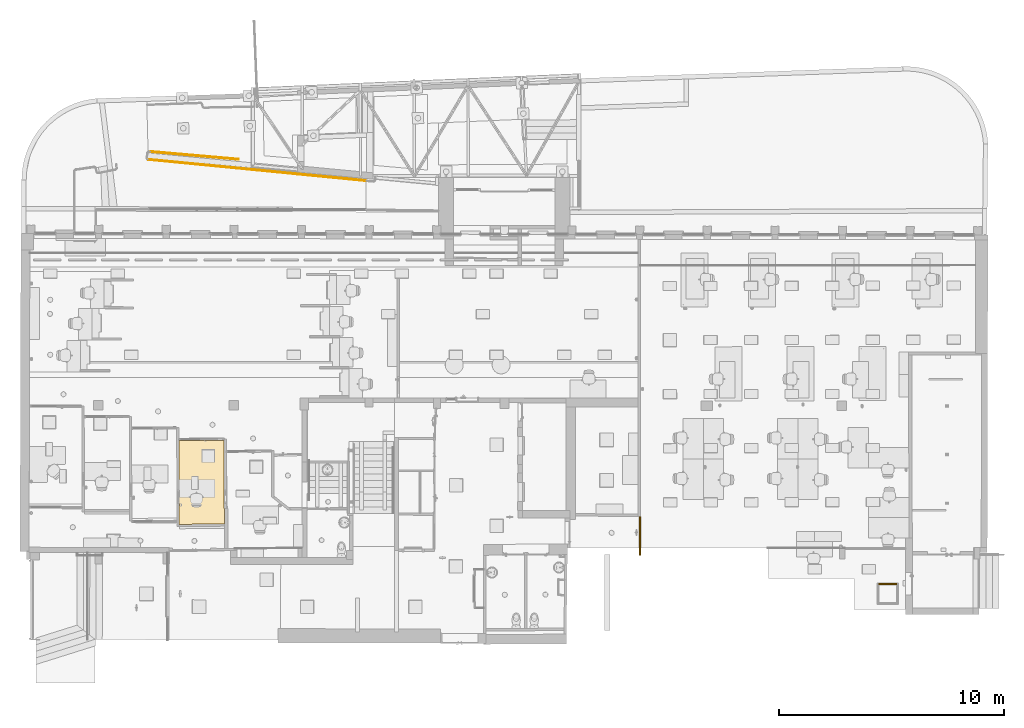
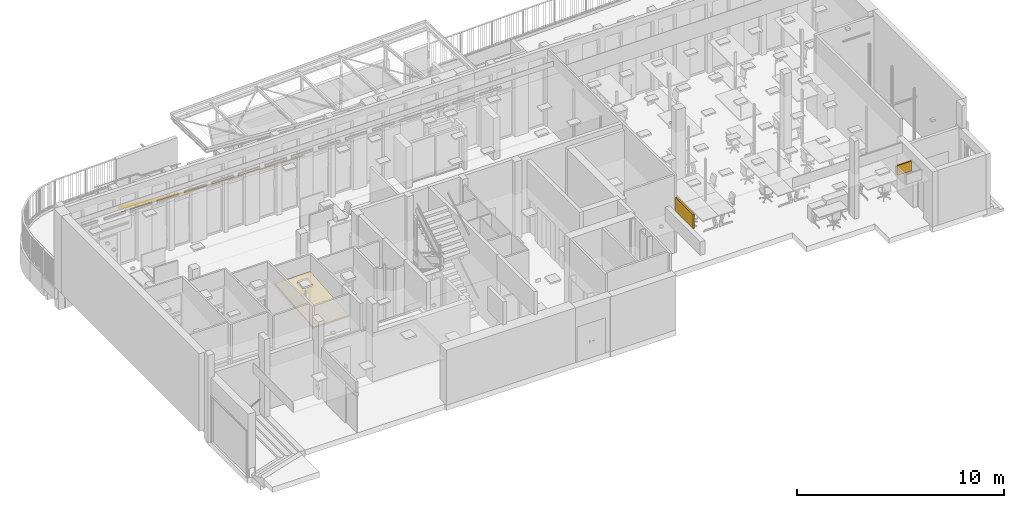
# One storey, part 53 of 128: 3 coverings, 2 railings.
"""IFC2X3 building model written with IfcOpenShell, lengths in metres."""

from ifc_helpers import new_model, entity, si_unit, converted_unit, derived_unit, direction, frame, frame_2d, origin, place, context, subcontext, project, spatial, polyline, rectangle, extrude, clip, bounded_halfspace, faceted_brep, material, layer, layer_set, layer_usage, type_object, element, save


model = new_model("IFC2X3")

# Units and contexts
model_context = context("Model", 3, precision=1e-05, world=origin(), true_north=direction((6.123031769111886e-17, 1.0)))
body_context = subcontext(model_context, "Body", "Model", "MODEL_VIEW")
ifc_project = project(units=[si_unit("LENGTHUNIT", "METRE"), si_unit("AREAUNIT", "SQUARE_METRE"), converted_unit("PLANEANGLEUNIT", "DEGREE", entity("IfcPlaneAngleMeasure", 0.017453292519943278), si_unit("PLANEANGLEUNIT", "RADIAN"), dimensions=[0, 0, 0, 0, 0, 0, 0]), derived_unit("THERMALTRANSMITTANCEUNIT", [(si_unit("MASSUNIT", "GRAM", prefix="KILO"), 1), (si_unit("THERMODYNAMICTEMPERATUREUNIT", "KELVIN"), -1), (si_unit("TIMEUNIT", "SECOND"), -3)])], contexts=[model_context])

# Site, building, storey
site_placement = place(None, origin())
site = spatial("IfcSite", under=ifc_project, at=site_placement, Name="Default", CompositionType="ELEMENT")
building_placement = place(site_placement, origin())
building = spatial("IfcBuilding", under=site, at=building_placement, CompositionType="ELEMENT")
storey_placement = place(building_placement, origin())
storey = spatial("IfcBuildingStorey", under=building, at=storey_placement, Name="00_RDC CAF", CompositionType="ELEMENT", Elevation=2.4982504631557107e-13)

# Coverings
ifc_material_1 = material(Name="ARC - FP - Blanc")
ifc_layer_1 = layer(ifc_material_1, 0.02)
ifc_material_2 = material(Name="ARC - FP - Trame 600 x 600")
ifc_layer_2 = layer(ifc_material_2, 0.05)
ifc_layer_set_1 = layer_set([ifc_layer_1, ifc_layer_2], Name="Plafond composé:FP_Dalle-600X600_70mm")
ifc_layer_usage_1 = layer_usage(ifc_layer_set_1, "AXIS3", "NEGATIVE", 0.07)
covering_type_1 = type_object("IfcCoveringType", Name="Plafond composé:FP_Dalle-600X600_70mm", PredefinedType="CEILING")
covering_1_placement = place(storey_placement, frame((13.31193188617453, 131.2677984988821, 2.8728524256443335)))
element("IfcCovering", 1, at=covering_1_placement, inside=storey, type_object=covering_type_1, material=ifc_layer_usage_1, Name="Plafond composé:FP_Dalle-600X600_70mm", ObjectType="Plafond composé:FP_Dalle-600X600_70mm", PredefinedType="CEILING", context=body_context, shape_type="Brep", body=[
    faceted_brep([(2.0020848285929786, 3.7307222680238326, 0.4060479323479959), (0.0, 3.7194323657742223, 0.4050318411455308), (0.01278012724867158, 0.0, 0.07028292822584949), (2.0116652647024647, 0.017869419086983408, 0.07189117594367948), (1.5785378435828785, 2.7609326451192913, 0.3187668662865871), (1.0285410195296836, 2.75907107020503, 0.3185993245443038), (1.0266719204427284, 3.306853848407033, 0.3678997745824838), (1.5766687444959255, 3.3087154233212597, 0.3680673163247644), (0.0, 3.7194323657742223, 0.33474891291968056), (2.0020848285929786, 3.7307222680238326, 0.33576500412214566), (2.0116652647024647, 0.017869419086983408, 0.0016082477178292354), (0.01278012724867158, 0.0, 0.0), (1.0285410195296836, 2.765345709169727, 0.24888111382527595), (1.5785378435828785, 2.7672072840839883, 0.24904865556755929), (1.5766687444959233, 3.3149900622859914, 0.29834910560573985), (1.0266719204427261, 3.3131284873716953, 0.2981815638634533)], [[[0, 1, 2, 3], [4, 5, 6, 7]], [[8, 9, 10, 11], [12, 13, 14, 15]], [[1, 0, 9, 8]], [[2, 1, 8, 11]], [[3, 2, 11, 10]], [[0, 3, 10, 9]], [[4, 13, 12, 5]], [[5, 12, 15, 6]], [[6, 15, 14, 7]], [[13, 4, 7, 14]]]),
])
ifc_layer_3 = layer(ifc_material_1, 0.07)
ifc_layer_set_2 = layer_set([ifc_layer_3], Name="Mur de base:FP_Platre_70mm_Joue_de_plafond")
covering_type_2 = type_object("IfcCoveringType", Name="Mur de base:FP_Platre_70mm_Joue_de_plafond", PredefinedType="CEILING", material=ifc_layer_set_2)
covering_2_placement = place(storey_placement, frame((33.75655519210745, 131.61549119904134, 2.429999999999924), z_axis=(0.0, 0.0, 1.0), x_axis=(0.0006792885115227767, -0.9999997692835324, 0.0)))
element("IfcCovering", 2, at=covering_2_placement, inside=storey, type_object=covering_type_2, Name="Mur de base:FP_Platre_70mm_Joue_de_plafond", ObjectType="Mur de base:FP_Platre_70mm_Joue_de_plafond", PredefinedType="CEILING", context=body_context, shape_type="Brep", body=[
    faceted_brep([(1.7096151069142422, -0.03500000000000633, 0.0), (1.7096151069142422, -0.03500000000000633, 0.8399999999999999), (0.0, -0.03500000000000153, 0.8399999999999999), (0.0, -0.035000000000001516, 0.020000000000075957), (1.4012565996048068, -0.03500000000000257, 0.020000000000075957), (1.4012565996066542, -0.03499999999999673, 0.0), (1.7096151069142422, 0.034999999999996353, 0.8399999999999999), (1.7096151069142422, 0.034999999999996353, 0.0), (1.4013041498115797, 0.034999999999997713, 0.0), (1.401304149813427, 0.03499999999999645, 0.020000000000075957), (0.0005172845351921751, 0.03499999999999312, 0.020000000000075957), (0.0005172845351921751, 0.03499999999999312, 0.770000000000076), (0.0005172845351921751, 0.03499999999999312, 0.8399999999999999), (1.397101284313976, 0.03499999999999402, 0.8399999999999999)], [[[0, 1, 2, 3, 4, 5]], [[6, 7, 8, 9, 10, 11, 12, 13]], [[7, 0, 5, 8]], [[1, 0, 7, 6]], [[2, 1, 6, 13, 12]], [[2, 12, 11, 10, 3]], [[9, 4, 3, 10]], [[4, 9, 8, 5]]]),
])
ifc_layer_usage_2 = layer_usage(ifc_layer_set_2, "AXIS2", "NEGATIVE", 0.035)
covering_3_placement = place(storey_placement, frame((45.1532332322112, 128.62748300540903, 2.6500000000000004), z_axis=(0.0, 0.0, 1.0), x_axis=(-1.0, 0.0, 0.0)))
element("IfcCovering", 3, at=covering_3_placement, inside=storey, type_object=covering_type_2, material=ifc_layer_usage_2, Name="Mur de base:FP_Platre_70mm_Joue_de_plafond", ObjectType="Mur de base:FP_Platre_70mm_Joue_de_plafond", PredefinedType="CEILING", context=body_context, shape_type="Clipping", body=[
    clip(extrude(rectangle(XDim=0.8, YDim=0.06999999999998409, at=frame_2d((0.4, 0.0), x_axis=(-1.0, 0.0))), origin(), (0.0, 0.0, 1.0), 0.5800000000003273), bounded_halfspace(frame((0.8, -0.03500000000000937, 0.0), z_axis=(0.0, 0.0, 1.0), x_axis=(-0.009657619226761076, 0.9999533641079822, 0.0)), True, frame((0.8, -0.03500000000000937, 0.0), z_axis=(0.0, 0.0, 1.0), x_axis=(-0.009657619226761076, 0.9999533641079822, 0.0)), polyline([(0.0, 0.0), (0.06999673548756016, -0.0006760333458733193), (0.07772283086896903, 0.7992866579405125), (0.007726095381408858, 0.7999626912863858), (0.0, 0.0)]))),
])

# Railings
ifc_material_3 = material(Name="ARC - Metal")
railing_type = type_object("IfcRailingType", Name="Garde-corps:GC_1_lisse_D50_950mm 2", PredefinedType="NOTDEFINED")
railing_1_placement = place(storey_placement, frame((11.948066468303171, 146.48331165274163, 0.3983383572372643)))
element("IfcRailing", 4, at=railing_1_placement, inside=storey, type_object=railing_type, material=ifc_material_3, Name="Garde-corps:GC_1_lisse_D50_950mm 2", ObjectType="Garde-corps:GC_1_lisse_D50_950mm 2", PredefinedType="NOTDEFINED", context=body_context, shape_type="Brep", body=[
    faceted_brep([(0.006126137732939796, 0.9902010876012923, 0.039145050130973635), (0.006126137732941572, 0.9902010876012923, 0.032886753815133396), (0.006126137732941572, 0.9902010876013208, 0.02662845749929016), (0.006126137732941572, 0.9902010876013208, 0.020370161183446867), (0.006126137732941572, 0.9902010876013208, 0.014111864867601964), (0.005600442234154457, 0.9848140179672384, 0.010982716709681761), (0.005074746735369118, 0.9794269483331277, 0.007853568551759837), (0.004472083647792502, 0.9732511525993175, 0.004266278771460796), (0.00402335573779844, 0.9686528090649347, 0.0015952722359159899), (0.0035746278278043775, 0.9640544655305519, 0.004266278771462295), (0.0031258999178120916, 0.959456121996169, 0.0069372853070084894), (0.0025232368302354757, 0.9532803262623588, 0.010524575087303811), (0.0019205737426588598, 0.947104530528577, 0.014111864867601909), (0.0019205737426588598, 0.947104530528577, 0.02037016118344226), (0.0019205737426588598, 0.947104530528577, 0.02662845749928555), (0.0019205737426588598, 0.9471045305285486, 0.03288675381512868), (0.0019205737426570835, 0.9471045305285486, 0.03914505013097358), (0.002446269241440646, 0.9524916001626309, 0.04227419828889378), (0.002971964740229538, 0.95787866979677, 0.04540334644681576), (0.0034976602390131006, 0.9632657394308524, 0.048532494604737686), (0.004023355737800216, 0.9686528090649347, 0.051661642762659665), (0.0045490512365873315, 0.974039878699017, 0.04853249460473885), (0.005074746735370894, 0.9794269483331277, 0.04540334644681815), (0.005600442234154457, 0.98481401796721, 0.04227419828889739), (9.661080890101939, 0.04802535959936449, 0.5391450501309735), (9.660478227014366, 0.041849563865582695, 0.5427323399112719), (9.65987556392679, 0.035673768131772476, 0.5463196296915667), (9.659426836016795, 0.031075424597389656, 0.5489906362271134), (9.658978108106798, 0.026477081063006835, 0.5516616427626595), (9.65852938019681, 0.021878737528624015, 0.5489906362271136), (9.65792671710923, 0.015702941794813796, 0.5454033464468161), (9.65740102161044, 0.010315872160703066, 0.5422741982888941), (9.65687532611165, 0.004928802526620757, 0.5391450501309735), (9.65687532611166, 0.004928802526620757, 0.532886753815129), (9.65687532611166, 0.004928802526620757, 0.5266284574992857), (9.65687532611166, 0.004928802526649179, 0.5203701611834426), (9.656875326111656, 0.004928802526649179, 0.5141118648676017), (9.657401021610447, 0.010315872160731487, 0.5109827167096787), (9.65792671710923, 0.015702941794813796, 0.5078535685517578), (9.658452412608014, 0.021090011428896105, 0.504724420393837), (9.658978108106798, 0.026477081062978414, 0.5015952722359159), (9.659503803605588, 0.031864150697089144, 0.5047244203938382), (9.660029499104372, 0.037251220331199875, 0.5078535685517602), (9.660555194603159, 0.04263828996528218, 0.5109827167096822), (9.661080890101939, 0.04802535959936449, 0.5141118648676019), (9.661080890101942, 0.04802535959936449, 0.5203701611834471), (9.661080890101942, 0.04802535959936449, 0.5266284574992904), (9.661080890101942, 0.04802535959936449, 0.5328867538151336)], [[[0, 1, 2, 3, 4, 5, 6, 7, 8, 9, 10, 11, 12, 13, 14, 15, 16, 17, 18, 19, 20, 21, 22, 23]], [[24, 25, 26, 27, 28, 29, 30, 31, 32, 33, 34, 35, 36, 37, 38, 39, 40, 41, 42, 43, 44, 45, 46, 47]], [[10, 9, 8, 40, 39, 38, 37, 36, 12, 11]], [[14, 13, 12, 36, 35, 34, 33, 32, 16, 15]], [[29, 28, 20, 19, 18, 17, 16, 32, 31, 30]], [[22, 21, 20, 28, 27, 26, 25, 24, 0, 23]], [[6, 5, 4, 44, 43, 42, 41, 40, 8, 7]], [[3, 2, 1, 0, 24, 47, 46, 45, 44, 4]]]),
])
railing_2_placement = place(storey_placement, frame((12.048177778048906, 147.43282128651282, 0.2150157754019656)))
element("IfcRailing", 5, at=railing_2_placement, inside=storey, type_object=railing_type, material=ifc_material_3, Name="Garde-corps:GC_1_lisse_D50_950mm 2", ObjectType="Garde-corps:GC_1_lisse_D50_950mm 2", PredefinedType="NOTDEFINED", context=body_context, shape_type="Brep", body=[
    faceted_brep([(3.9107443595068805, 0.04806838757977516, 0.03913406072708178), (3.910272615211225, 0.04267632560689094, 0.042262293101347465), (3.909800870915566, 0.0372842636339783, 0.04539052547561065), (3.9093291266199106, 0.03189220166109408, 0.04851875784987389), (3.9088573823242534, 0.026500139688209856, 0.05164699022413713), (3.9083856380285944, 0.021108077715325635, 0.04851875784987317), (3.907913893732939, 0.015716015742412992, 0.045390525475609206), (3.9074421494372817, 0.01032395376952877, 0.04226229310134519), (3.9069704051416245, 0.00493189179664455, 0.039134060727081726), (3.9069704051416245, 0.00493189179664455, 0.03287759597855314), (3.9069704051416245, 0.00493189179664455, 0.026621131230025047), (3.9069704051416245, 0.004931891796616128, 0.020364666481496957), (3.9069704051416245, 0.00493189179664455, 0.014108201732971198), (3.9074421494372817, 0.01032395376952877, 0.010979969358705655), (3.907913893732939, 0.015716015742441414, 0.007851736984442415), (3.9084098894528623, 0.02138527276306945, 0.004562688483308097), (3.908857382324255, 0.026500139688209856, 0.0015952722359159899), (3.90930487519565, 0.03161500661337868, 0.004562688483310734), (3.9097523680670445, 0.03672987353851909, 0.0075301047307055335), (3.910248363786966, 0.042399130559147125, 0.010819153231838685), (3.910744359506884, 0.048068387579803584, 0.014108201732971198), (3.910744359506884, 0.048068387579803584, 0.020364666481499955), (3.9107443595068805, 0.048068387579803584, 0.026621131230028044), (3.9107443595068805, 0.048068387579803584, 0.03287759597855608), (0.005661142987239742, 0.3897188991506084, 0.21747421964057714), (0.005661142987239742, 0.38971889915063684, 0.21121775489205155), (0.005661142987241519, 0.38971889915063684, 0.20496129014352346), (0.005661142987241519, 0.3897188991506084, 0.19870482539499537), (0.005661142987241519, 0.38971889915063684, 0.19244836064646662), (0.0051893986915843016, 0.3843268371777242, 0.18932012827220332), (0.004717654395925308, 0.37893477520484, 0.18619189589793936), (0.004245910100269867, 0.3735427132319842, 0.1830636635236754), (0.0037741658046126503, 0.36815065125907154, 0.17993543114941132), (0.003302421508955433, 0.3627585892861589, 0.18306366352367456), (0.0028306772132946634, 0.3573665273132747, 0.1861918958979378), (0.0023589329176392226, 0.35197446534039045, 0.189320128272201), (0.0018871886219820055, 0.34658240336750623, 0.19244836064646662), (0.0018871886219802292, 0.3465824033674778, 0.19870482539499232), (0.0018871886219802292, 0.3465824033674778, 0.20496129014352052), (0.0018871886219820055, 0.3465824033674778, 0.2112177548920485), (0.0018871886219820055, 0.3465824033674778, 0.2174742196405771), (0.0023831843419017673, 0.35225166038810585, 0.22076326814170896), (0.0028791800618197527, 0.3579209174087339, 0.22405231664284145), (0.0033266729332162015, 0.3630357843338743, 0.22701973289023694), (0.003774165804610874, 0.3681506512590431, 0.2299871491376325), (0.004221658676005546, 0.37326551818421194, 0.2270197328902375), (0.004717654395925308, 0.37893477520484, 0.22373068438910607), (0.005189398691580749, 0.3843268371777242, 0.22060245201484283)], [[[0, 1, 2, 3, 4, 5, 6, 7, 8, 9, 10, 11, 12, 13, 14, 15, 16, 17, 18, 19, 20, 21, 22, 23]], [[24, 25, 26, 27, 28, 29, 30, 31, 32, 33, 34, 35, 36, 37, 38, 39, 40, 41, 42, 43, 44, 45, 46, 47]], [[18, 17, 16, 32, 31, 30, 29, 28, 20, 19]], [[22, 21, 20, 28, 27, 26, 25, 24, 0, 23]], [[45, 44, 4, 3, 2, 1, 0, 24, 47, 46]], [[6, 5, 4, 44, 43, 42, 41, 40, 8, 7]], [[14, 13, 12, 36, 35, 34, 33, 32, 16, 15]], [[11, 10, 9, 8, 40, 39, 38, 37, 36, 12]]]),
])

save(model, "model.ifc")
